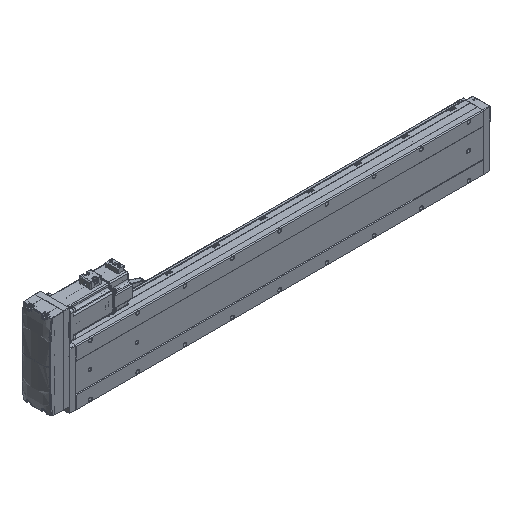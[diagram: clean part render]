
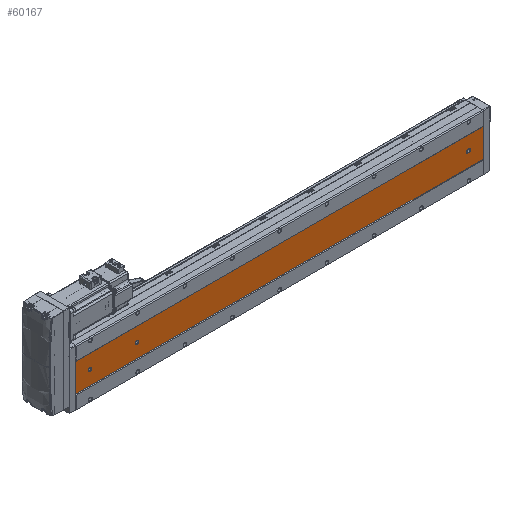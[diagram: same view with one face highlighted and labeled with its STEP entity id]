
A CAD part, isometric view. The second image highlights one B-rep face of the part: STEP entity #60167.
In plain terms, the highlighted planar face has unit normal (0, -1, 0).
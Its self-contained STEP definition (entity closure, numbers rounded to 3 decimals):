
#290 = VECTOR ( 'NONE', #98379, 1000. ) ;
#423 = CARTESIAN_POINT ( 'NONE',  ( -39.892, -52.848, 731. ) ) ;
#2477 = DIRECTION ( 'NONE',  ( 0., 1., 0. ) ) ;
#3961 = VERTEX_POINT ( 'NONE', #5270 ) ;
#5106 = CARTESIAN_POINT ( 'NONE',  ( -39.892, -52.848, 834.5 ) ) ;
#5270 = CARTESIAN_POINT ( 'NONE',  ( -9.892, -52.848, 0. ) ) ;
#6269 = CIRCLE ( 'NONE', #12028, 3.5 ) ;
#9633 = VECTOR ( 'NONE', #46276, 1000. ) ;
#9798 = FACE_BOUND ( 'NONE', #51830, .T. ) ;
#11979 = DIRECTION ( 'NONE',  ( 1., 0., 0. ) ) ;
#11987 = DIRECTION ( 'NONE',  ( 0., 0., 1. ) ) ;
#12028 = AXIS2_PLACEMENT_3D ( 'NONE', #56173, #63830, #81312 ) ;
#12188 = CARTESIAN_POINT ( 'NONE',  ( -39.892, -52.848, 827.5 ) ) ;
#12486 = AXIS2_PLACEMENT_3D ( 'NONE', #91148, #32583, #98783 ) ;
#12641 = CARTESIAN_POINT ( 'NONE',  ( -9.892, -52.848, 861. ) ) ;
#14163 = CARTESIAN_POINT ( 'NONE',  ( -36.392, -52.848, 30. ) ) ;
#15496 = EDGE_CURVE ( 'NONE', #82726, #89252, #79005, .T. ) ;
#16514 = DIRECTION ( 'NONE',  ( 0., 1., 0. ) ) ;
#17896 = ORIENTED_EDGE ( 'NONE', *, *, #15496, .T. ) ;
#18530 = LINE ( 'NONE', #40251, #290 ) ;
#18666 = EDGE_CURVE ( 'NONE', #70438, #78914, #65091, .T. ) ;
#18906 = EDGE_CURVE ( 'NONE', #78914, #3961, #29942, .T. ) ;
#19052 = CARTESIAN_POINT ( 'NONE',  ( -69.892, -52.848, 861. ) ) ;
#19944 = CARTESIAN_POINT ( 'NONE',  ( -39.892, -52.848, 26.5 ) ) ;
#22223 = AXIS2_PLACEMENT_3D ( 'NONE', #98885, #2477, #25800 ) ;
#24849 = VECTOR ( 'NONE', #28692, 1000. ) ;
#25800 = DIRECTION ( 'NONE',  ( 0., 0., 1. ) ) ;
#26304 = DIRECTION ( 'NONE',  ( 0., 0., 1. ) ) ;
#27920 = CIRCLE ( 'NONE', #104091, 3.5 ) ;
#28692 = DIRECTION ( 'NONE',  ( 1., 0., 0. ) ) ;
#28867 = EDGE_CURVE ( 'NONE', #89252, #82726, #105472, .T. ) ;
#28883 = VERTEX_POINT ( 'NONE', #106913 ) ;
#29542 = CARTESIAN_POINT ( 'NONE',  ( -39.892, -52.848, 731. ) ) ;
#29942 = LINE ( 'NONE', #12641, #61177 ) ;
#30192 = VERTEX_POINT ( 'NONE', #95106 ) ;
#31559 = EDGE_CURVE ( 'NONE', #43585, #78698, #18530, .T. ) ;
#32583 = DIRECTION ( 'NONE',  ( 0., 1., 0. ) ) ;
#33095 = VERTEX_POINT ( 'NONE', #74268 ) ;
#34805 = ORIENTED_EDGE ( 'NONE', *, *, #31559, .T. ) ;
#34906 = EDGE_LOOP ( 'NONE', ( #79676, #97017, #45323, #48646 ) ) ;
#36074 = AXIS2_PLACEMENT_3D ( 'NONE', #423, #84110, #26304 ) ;
#37735 = ORIENTED_EDGE ( 'NONE', *, *, #64670, .T. ) ;
#37938 = DIRECTION ( 'NONE',  ( 0., 0., 1. ) ) ;
#38177 = ORIENTED_EDGE ( 'NONE', *, *, #52641, .T. ) ;
#38866 = CARTESIAN_POINT ( 'NONE',  ( -69.892, -52.848, 861. ) ) ;
#40149 = CIRCLE ( 'NONE', #12486, 3.5 ) ;
#40251 = CARTESIAN_POINT ( 'NONE',  ( -36.392, -52.848, 861. ) ) ;
#40575 = CARTESIAN_POINT ( 'NONE',  ( -39.892, -52.848, 831. ) ) ;
#43585 = VERTEX_POINT ( 'NONE', #63983 ) ;
#43819 = EDGE_LOOP ( 'NONE', ( #101725, #37735 ) ) ;
#45131 = CARTESIAN_POINT ( 'NONE',  ( -69.892, -52.848, 861. ) ) ;
#45323 = ORIENTED_EDGE ( 'NONE', *, *, #18666, .F. ) ;
#46276 = DIRECTION ( 'NONE',  ( 0., 0., 1. ) ) ;
#46639 = CARTESIAN_POINT ( 'NONE',  ( -43.392, -52.848, 861. ) ) ;
#47128 = CIRCLE ( 'NONE', #22223, 3.5 ) ;
#48646 = ORIENTED_EDGE ( 'NONE', *, *, #77489, .T. ) ;
#48962 = CARTESIAN_POINT ( 'NONE',  ( -9.892, -52.848, 861. ) ) ;
#51830 = EDGE_LOOP ( 'NONE', ( #17896, #84824 ) ) ;
#52641 = EDGE_CURVE ( 'NONE', #78698, #58614, #40149, .T. ) ;
#52669 = LINE ( 'NONE', #46639, #9633 ) ;
#54925 = DIRECTION ( 'NONE',  ( 0., 0., 1. ) ) ;
#55786 = LINE ( 'NONE', #61048, #70121 ) ;
#56173 = CARTESIAN_POINT ( 'NONE',  ( -39.892, -52.848, 831. ) ) ;
#58052 = ORIENTED_EDGE ( 'NONE', *, *, #84111, .T. ) ;
#58614 = VERTEX_POINT ( 'NONE', #19944 ) ;
#60167 = ADVANCED_FACE ( 'NONE', ( #77548, #9798, #81428, #73564 ), #87238, .F. ) ;
#61048 = CARTESIAN_POINT ( 'NONE',  ( -69.892, -52.848, 0. ) ) ;
#61177 = VECTOR ( 'NONE', #69736, 1000. ) ;
#61185 = DIRECTION ( 'NONE',  ( 0., 0., -1. ) ) ;
#62320 = AXIS2_PLACEMENT_3D ( 'NONE', #29542, #87757, #37938 ) ;
#63830 = DIRECTION ( 'NONE',  ( 0., 1., 0. ) ) ;
#63983 = CARTESIAN_POINT ( 'NONE',  ( -36.392, -52.848, 32. ) ) ;
#64670 = EDGE_CURVE ( 'NONE', #79393, #64832, #104270, .T. ) ;
#64832 = VERTEX_POINT ( 'NONE', #12188 ) ;
#65091 = LINE ( 'NONE', #45131, #24849 ) ;
#65378 = ORIENTED_EDGE ( 'NONE', *, *, #79424, .T. ) ;
#67101 = LINE ( 'NONE', #19052, #74950 ) ;
#69736 = DIRECTION ( 'NONE',  ( 0., 0., -1. ) ) ;
#70121 = VECTOR ( 'NONE', #11979, 1000. ) ;
#70438 = VERTEX_POINT ( 'NONE', #38866 ) ;
#71507 = EDGE_LOOP ( 'NONE', ( #96107, #58052, #34805, #38177, #65378 ) ) ;
#73042 = AXIS2_PLACEMENT_3D ( 'NONE', #40575, #16514, #98700 ) ;
#73564 = FACE_OUTER_BOUND ( 'NONE', #34906, .T. ) ;
#74268 = CARTESIAN_POINT ( 'NONE',  ( -43.392, -52.848, 30. ) ) ;
#74950 = VECTOR ( 'NONE', #61185, 1000. ) ;
#77489 = EDGE_CURVE ( 'NONE', #70438, #28883, #67101, .T. ) ;
#77548 = FACE_BOUND ( 'NONE', #71507, .T. ) ;
#78698 = VERTEX_POINT ( 'NONE', #14163 ) ;
#78914 = VERTEX_POINT ( 'NONE', #48962 ) ;
#79005 = CIRCLE ( 'NONE', #36074, 3.5 ) ;
#79345 = CARTESIAN_POINT ( 'NONE',  ( -39.892, -52.848, 30. ) ) ;
#79393 = VERTEX_POINT ( 'NONE', #5106 ) ;
#79407 = EDGE_CURVE ( 'NONE', #33095, #30192, #52669, .T. ) ;
#79424 = EDGE_CURVE ( 'NONE', #58614, #33095, #27920, .T. ) ;
#79676 = ORIENTED_EDGE ( 'NONE', *, *, #84302, .T. ) ;
#81312 = DIRECTION ( 'NONE',  ( 0., 0., 1. ) ) ;
#81428 = FACE_BOUND ( 'NONE', #43819, .T. ) ;
#82726 = VERTEX_POINT ( 'NONE', #86638 ) ;
#84110 = DIRECTION ( 'NONE',  ( 0., 1., 0. ) ) ;
#84111 = EDGE_CURVE ( 'NONE', #30192, #43585, #47128, .T. ) ;
#84302 = EDGE_CURVE ( 'NONE', #28883, #3961, #55786, .T. ) ;
#84824 = ORIENTED_EDGE ( 'NONE', *, *, #28867, .T. ) ;
#86638 = CARTESIAN_POINT ( 'NONE',  ( -39.892, -52.848, 727.5 ) ) ;
#87238 = PLANE ( 'NONE',  #87407 ) ;
#87407 = AXIS2_PLACEMENT_3D ( 'NONE', #95964, #103217, #11987 ) ;
#87708 = DIRECTION ( 'NONE',  ( 0., 1., 0. ) ) ;
#87757 = DIRECTION ( 'NONE',  ( 0., 1., 0. ) ) ;
#89252 = VERTEX_POINT ( 'NONE', #105510 ) ;
#91148 = CARTESIAN_POINT ( 'NONE',  ( -39.892, -52.848, 30. ) ) ;
#95106 = CARTESIAN_POINT ( 'NONE',  ( -43.392, -52.848, 32. ) ) ;
#95964 = CARTESIAN_POINT ( 'NONE',  ( -69.892, -52.848, 861. ) ) ;
#96107 = ORIENTED_EDGE ( 'NONE', *, *, #79407, .T. ) ;
#97017 = ORIENTED_EDGE ( 'NONE', *, *, #18906, .F. ) ;
#98379 = DIRECTION ( 'NONE',  ( 0., 0., -1. ) ) ;
#98700 = DIRECTION ( 'NONE',  ( 0., 0., 1. ) ) ;
#98783 = DIRECTION ( 'NONE',  ( 0., 0., 1. ) ) ;
#98885 = CARTESIAN_POINT ( 'NONE',  ( -39.892, -52.848, 32. ) ) ;
#101725 = ORIENTED_EDGE ( 'NONE', *, *, #104983, .T. ) ;
#103217 = DIRECTION ( 'NONE',  ( 0., 1., 0. ) ) ;
#104091 = AXIS2_PLACEMENT_3D ( 'NONE', #79345, #87708, #54925 ) ;
#104270 = CIRCLE ( 'NONE', #73042, 3.5 ) ;
#104983 = EDGE_CURVE ( 'NONE', #64832, #79393, #6269, .T. ) ;
#105472 = CIRCLE ( 'NONE', #62320, 3.5 ) ;
#105510 = CARTESIAN_POINT ( 'NONE',  ( -39.892, -52.848, 734.5 ) ) ;
#106913 = CARTESIAN_POINT ( 'NONE',  ( -69.892, -52.848, 0. ) ) ;
